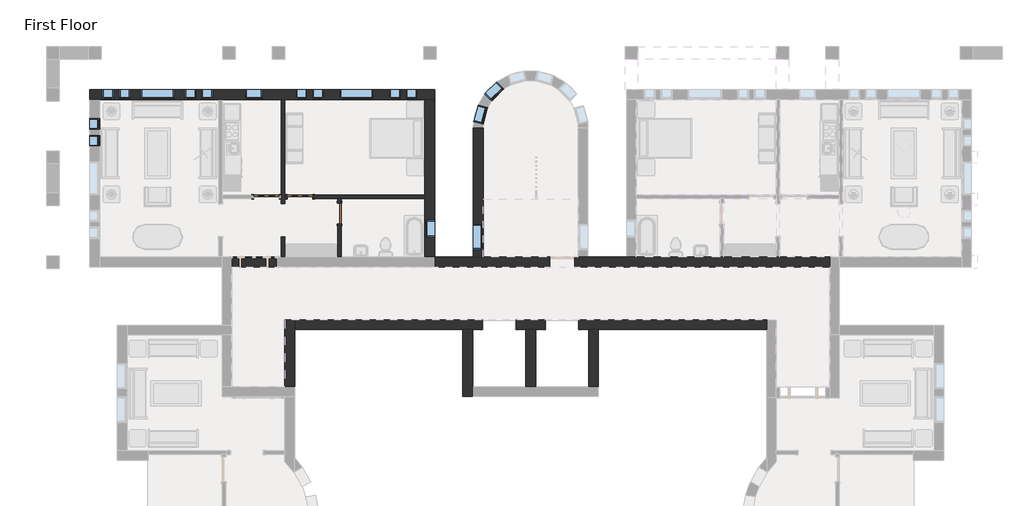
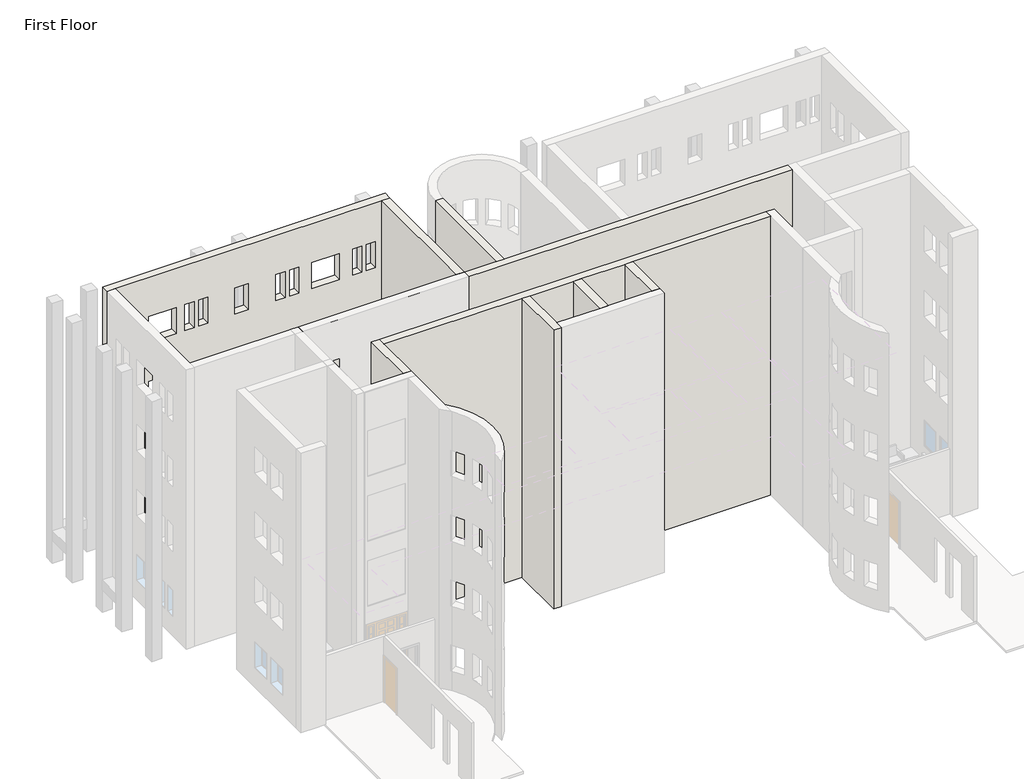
# One storey, part 13 of 21: 17 windows, 12 walls, 3 doors.
"""IFC4 building model written with IfcOpenShell, lengths in millimetres."""

from ifc_helpers import new_model, si_unit, frame, origin, origin_with_axes, place, context, project, spatial, polyline, outline, extrude, faceted_brep, transform, mapped, element, save
from components import door_829da954, door_2e3b4da2, door_e36758a9, window_da97879f, window_d61ef850, window_60baf983, window_ed80354a, window_15c49d37, window_d89bf842

model = new_model("IFC4")

# Units and contexts
model_context = context("Model", 3, world=origin())
ifc_project = project(units=[si_unit("LENGTHUNIT", "METRE", prefix="MILLI")], contexts=[model_context])

# Site, building, storey
site = spatial("IfcSite", under=ifc_project)
building = spatial("IfcBuilding", under=site)
storey = spatial("IfcBuildingStorey", under=building, Name="First Floor", Elevation=0.0)

# Doors
placement = place(None, origin())
door_shape = door_829da954(model_context)
element("IfcDoor", 1, ObjectType="Single-Decorative 2 : 36\" x 84\"", at=placement, inside=storey, context=model_context, shape_type="MappedRepresentation", body=[
    mapped(door_shape, transform((-23455.2839563, 6723.5441867, 0.0), x_axis=(-1.0, 0.0, 0.0), y_axis=(0.0, -1.0, 0.0), z_axis=(0.0, 0.0, 1.0))),
])
door_2_shape = door_2e3b4da2(model_context)
element("IfcDoor", 2, ObjectType="Single-Decorative 2 : 36\" x 84\"", at=placement, inside=storey, context=model_context, shape_type="MappedRepresentation", body=[
    mapped(door_2_shape, transform((-24674.4839563, 6723.5441867, 0.0), x_axis=(1.0, 0.0, 0.0), y_axis=(0.0, 1.0, 0.0), z_axis=(0.0, 0.0, 1.0))),
])
door_3_shape = door_e36758a9(model_context)
element("IfcDoor", 3, ObjectType="Single-Flush : 30\" x 84\"", at=placement, inside=storey, context=model_context, shape_type="MappedRepresentation", body=[
    mapped(door_3_shape, transform((-22018.5964563, 6113.9441867, 0.0), x_axis=(0.0, 1.0, 0.0), y_axis=(-1.0, 0.0, 0.0), z_axis=(0.0, 0.0, 1.0))),
])

# Walls
element("IfcWall", 4, ObjectType="Exterior - Brick on Mtl. Stud", at=placement, inside=storey, context=model_context, shape_type="Brep", body=[
    faceted_brep([(-17524.3839563, 1888.0191867, 0.0), (-17524.3839563, -550.3808133, 0.0), (-17524.3839563, -550.3808133, 13106.4), (-17524.3839563, 1888.0191867, 13106.4), (-17171.9589563, 1888.0191867, 0.0), (-17171.9589563, 1888.0191867, 13106.4), (-17171.9589563, -197.9558133, 13106.4), (-17171.9589563, -550.3808133, 13106.4), (-17171.9589563, -550.3808133, 0.0), (-17171.9589563, -197.9558133, 0.0)], [[[0, 1, 2, 3]], [[4, 5, 6, 7, 8, 9]], [[1, 0, 4, 9, 8]], [[3, 2, 7, 6, 5]], [[2, 1, 8, 7]], [[0, 3, 5, 4]]]),
])
element("IfcWall", 5, ObjectType="Exterior - Brick on Mtl. Stud", at=placement, inside=storey, context=model_context, shape_type="SweptSolid", body=[
    extrude(outline(polyline([(-12599.9589563, 1888.0191867), (-12599.9589563, -197.9558133), (-12952.3839563, -197.9558133), (-12952.3839563, 1888.0191867), (-12599.9589563, 1888.0191867)])), origin_with_axes(), (0.0, 0.0, 1.0), 13106.4),
])
element("IfcWall", 6, ObjectType="Exterior - Brick on Mtl. Stud", at=placement, inside=storey, context=model_context, shape_type="Brep", body=[
    faceted_brep([(-15595.5714563, 1888.0191867, 0.0), (-15238.3839563, 1888.0191867, 0.0), (-14885.9589563, 1888.0191867, 0.0), (-14528.7714563, 1888.0191867, 0.0), (-14528.7714563, 1888.0191867, 2133.6), (-13309.5714563, 1888.0191867, 2133.6), (-13309.5714563, 1888.0191867, 0.0), (-12952.3839563, 1888.0191867, 0.0), (-12599.9589563, 1888.0191867, 0.0), (-6475.3839563, 1888.0191867, 0.0), (-6475.3839563, 1888.0191867, 13106.4), (-12599.9589563, 1888.0191867, 13106.4), (-12952.3839563, 1888.0191867, 13106.4), (-14885.9589563, 1888.0191867, 13106.4), (-15238.3839563, 1888.0191867, 13106.4), (-17171.9589563, 1888.0191867, 13106.4), (-17524.3839563, 1888.0191867, 13106.4), (-23648.9589563, 1888.0191867, 13106.4), (-23648.9589563, 1888.0191867, 0.0), (-17524.3839563, 1888.0191867, 0.0), (-17171.9589563, 1888.0191867, 0.0), (-16814.7714563, 1888.0191867, 0.0), (-16814.7714563, 1888.0191867, 2133.6), (-15595.5714563, 1888.0191867, 2133.6), (-13309.5714563, 1888.0191867, 8229.6), (-13309.5714563, 1888.0191867, 6096.0), (-14528.7714563, 1888.0191867, 6096.0), (-14528.7714563, 1888.0191867, 8229.6), (-15595.5714563, 1888.0191867, 8229.6), (-15595.5714563, 1888.0191867, 6096.0), (-16814.7714563, 1888.0191867, 6096.0), (-16814.7714563, 1888.0191867, 8229.6), (-13309.5714563, 1888.0191867, 5181.6), (-13309.5714563, 1888.0191867, 3048.0), (-14528.7714563, 1888.0191867, 3048.0), (-14528.7714563, 1888.0191867, 5181.6), (-15595.5714563, 1888.0191867, 5181.6), (-15595.5714563, 1888.0191867, 3048.0), (-16814.7714563, 1888.0191867, 3048.0), (-16814.7714563, 1888.0191867, 5181.6), (-13309.5714563, 1888.0191867, 11277.6), (-13309.5714563, 1888.0191867, 9144.0), (-14528.7714563, 1888.0191867, 9144.0), (-14528.7714563, 1888.0191867, 11277.6), (-15595.5714563, 1888.0191867, 11277.6), (-15595.5714563, 1888.0191867, 9144.0), (-16814.7714563, 1888.0191867, 9144.0), (-16814.7714563, 1888.0191867, 11277.6), (-14528.7714563, 2240.4441867, 2133.6), (-14528.7714563, 2240.4441867, 0.0), (-15595.5714563, 2240.4441867, 0.0), (-15595.5714563, 2240.4441867, 2133.6), (-16814.7714563, 2240.4441867, 2133.6), (-16814.7714563, 2240.4441867, 0.0), (-23648.9589563, 2240.4441867, 0.0), (-23648.9589563, 2240.4441867, 13106.4), (-6475.3839563, 2240.4441867, 13106.4), (-6475.3839563, 2240.4441867, 0.0), (-13309.5714563, 2240.4441867, 0.0), (-13309.5714563, 2240.4441867, 2133.6), (-13309.5714563, 2240.4441867, 8229.6), (-14528.7714563, 2240.4441867, 8229.6), (-14528.7714563, 2240.4441867, 6096.0), (-13309.5714563, 2240.4441867, 6096.0), (-15595.5714563, 2240.4441867, 8229.6), (-16814.7714563, 2240.4441867, 8229.6), (-16814.7714563, 2240.4441867, 6096.0), (-15595.5714563, 2240.4441867, 6096.0), (-13309.5714563, 2240.4441867, 5181.6), (-14528.7714563, 2240.4441867, 5181.6), (-14528.7714563, 2240.4441867, 3048.0), (-13309.5714563, 2240.4441867, 3048.0), (-15595.5714563, 2240.4441867, 5181.6), (-16814.7714563, 2240.4441867, 5181.6), (-16814.7714563, 2240.4441867, 3048.0), (-15595.5714563, 2240.4441867, 3048.0), (-13309.5714563, 2240.4441867, 11277.6), (-14528.7714563, 2240.4441867, 11277.6), (-14528.7714563, 2240.4441867, 9144.0), (-13309.5714563, 2240.4441867, 9144.0), (-15595.5714563, 2240.4441867, 11277.6), (-16814.7714563, 2240.4441867, 11277.6), (-16814.7714563, 2240.4441867, 9144.0), (-15595.5714563, 2240.4441867, 9144.0)], [[[0, 1, 2, 3, 4, 5, 6, 7, 8, 9, 10, 11, 12, 13, 14, 15, 16, 17, 18, 19, 20, 21, 22, 23], [24, 25, 26, 27], [28, 29, 30, 31], [32, 33, 34, 35], [36, 37, 38, 39], [40, 41, 42, 43], [44, 45, 46, 47]], [[48, 49, 50, 51, 52, 53, 54, 55, 56, 57, 58, 59], [60, 61, 62, 63], [64, 65, 66, 67], [68, 69, 70, 71], [72, 73, 74, 75], [76, 77, 78, 79], [80, 81, 82, 83]], [[54, 53, 21, 20, 19, 18]], [[50, 49, 3, 2, 1, 0]], [[58, 57, 9, 8, 7, 6]], [[17, 16, 15, 14, 13, 12, 11, 10, 56, 55]], [[10, 9, 57, 56]], [[18, 17, 55, 54]], [[0, 23, 51, 50]], [[22, 21, 53, 52]], [[23, 22, 52, 51]], [[6, 5, 59, 58]], [[4, 3, 49, 48]], [[5, 4, 48, 59]], [[25, 24, 60, 63]], [[26, 25, 63, 62]], [[27, 26, 62, 61]], [[24, 27, 61, 60]], [[29, 28, 64, 67]], [[30, 29, 67, 66]], [[31, 30, 66, 65]], [[28, 31, 65, 64]], [[33, 32, 68, 71]], [[34, 33, 71, 70]], [[35, 34, 70, 69]], [[32, 35, 69, 68]], [[37, 36, 72, 75]], [[38, 37, 75, 74]], [[39, 38, 74, 73]], [[36, 39, 73, 72]], [[41, 40, 76, 79]], [[42, 41, 79, 78]], [[43, 42, 78, 77]], [[40, 43, 77, 76]], [[45, 44, 80, 83]], [[46, 45, 83, 82]], [[47, 46, 82, 81]], [[44, 47, 81, 80]]]),
])
element("IfcWall", 7, ObjectType="Exterior - Brick on Mtl. Stud", at=placement, inside=storey, context=model_context, shape_type="SweptSolid", body=[
    extrude(outline(polyline([(4526.4441867, 0.0), (4526.4441867, 13106.4), (9227.0316867, 13106.4), (9227.0316867, 0.0), (4526.4441867, 0.0)]), holes=[polyline([(4807.4316867, 8229.6), (4807.4316867, 7010.4), (5721.8316867, 7010.4), (5721.8316867, 8229.6), (4807.4316867, 8229.6)]), polyline([(4807.4316867, 5181.6), (4807.4316867, 3962.4), (5721.8316867, 3962.4), (5721.8316867, 5181.6), (4807.4316867, 5181.6)]), polyline([(4807.4316867, 11277.6), (4807.4316867, 10058.4), (5721.8316867, 10058.4), (5721.8316867, 11277.6), (4807.4316867, 11277.6)]), polyline([(4807.4316867, 2133.6), (4807.4316867, 914.4), (5721.8316867, 914.4), (5721.8316867, 2133.6), (4807.4316867, 2133.6)])]), frame((-17143.3839563, 0.0, 0.0), z_axis=(1.0, 0.0, 0.0), x_axis=(0.0, 1.0, 0.0)), (0.0, 0.0, 1.0), 352.425),
])
element("IfcWall", 8, ObjectType="Exterior - Brick on Mtl. Stud", at=placement, inside=storey, context=model_context, shape_type="Brep", body=[
    faceted_brep([(-4189.3839563, 4526.4441867, 0.0), (-12980.9589563, 4526.4441867, 0.0), (-13333.3839563, 4526.4441867, 0.0), (-13461.9714563, 4526.4441867, 0.0), (-13461.9714563, 4526.4441867, 2133.6), (-14376.3714563, 4526.4441867, 2133.6), (-14376.3714563, 4526.4441867, 0.0), (-16790.9589563, 4526.4441867, 0.0), (-17143.3839563, 4526.4441867, 0.0), (-21955.0964563, 4526.4441867, 0.0), (-22082.0964563, 4526.4441867, 0.0), (-24001.3839563, 4526.4441867, 0.0), (-24128.3839563, 4526.4441867, 0.0), (-25934.9589563, 4526.4441867, 0.0), (-25934.9589563, 4526.4441867, 13106.4), (-17143.3839563, 4526.4441867, 13106.4), (-16790.9589563, 4526.4441867, 13106.4), (-13333.3839563, 4526.4441867, 13106.4), (-12980.9589563, 4526.4441867, 13106.4), (-4189.3839563, 4526.4441867, 13106.4), (-14376.3714563, 4526.4441867, 6096.0), (-13461.9714563, 4526.4441867, 6096.0), (-13461.9714563, 4526.4441867, 8229.6), (-14376.3714563, 4526.4441867, 8229.6), (-14376.3714563, 4526.4441867, 3048.0), (-13461.9714563, 4526.4441867, 3048.0), (-13461.9714563, 4526.4441867, 5181.6), (-14376.3714563, 4526.4441867, 5181.6), (-14376.3714563, 4526.4441867, 9144.0), (-13461.9714563, 4526.4441867, 9144.0), (-13461.9714563, 4526.4441867, 11277.6), (-14376.3714563, 4526.4441867, 11277.6), (-13461.9714563, 4174.0191867, 2133.6), (-13461.9714563, 4174.0191867, 0.0), (-4189.3839563, 4174.0191867, 0.0), (-4189.3839563, 4174.0191867, 13106.4), (-25934.9589563, 4174.0191867, 13106.4), (-25934.9589563, 4174.0191867, 0.0), (-14376.3714563, 4174.0191867, 0.0), (-14376.3714563, 4174.0191867, 2133.6), (-14376.3714563, 4174.0191867, 6096.0), (-14376.3714563, 4174.0191867, 8229.6), (-13461.9714563, 4174.0191867, 8229.6), (-13461.9714563, 4174.0191867, 6096.0), (-14376.3714563, 4174.0191867, 3048.0), (-14376.3714563, 4174.0191867, 5181.6), (-13461.9714563, 4174.0191867, 5181.6), (-13461.9714563, 4174.0191867, 3048.0), (-14376.3714563, 4174.0191867, 9144.0), (-14376.3714563, 4174.0191867, 11277.6), (-13461.9714563, 4174.0191867, 11277.6), (-13461.9714563, 4174.0191867, 9144.0)], [[[0, 1, 2, 3, 4, 5, 6, 7, 8, 9, 10, 11, 12, 13, 14, 15, 16, 17, 18, 19], [20, 21, 22, 23], [24, 25, 26, 27], [28, 29, 30, 31]], [[32, 33, 34, 35, 36, 37, 38, 39], [40, 41, 42, 43], [44, 45, 46, 47], [48, 49, 50, 51]], [[34, 33, 3, 2, 1, 0]], [[38, 37, 13, 12, 11, 10, 9, 8, 7, 6]], [[19, 18, 17, 16, 15, 14, 36, 35]], [[0, 19, 35, 34]], [[14, 13, 37, 36]], [[4, 3, 33, 32]], [[5, 4, 32, 39]], [[6, 5, 39, 38]], [[21, 20, 40, 43]], [[22, 21, 43, 42]], [[23, 22, 42, 41]], [[20, 23, 41, 40]], [[25, 24, 44, 47]], [[26, 25, 47, 46]], [[27, 26, 46, 45]], [[24, 27, 45, 44]], [[29, 28, 48, 51]], [[30, 29, 51, 50]], [[31, 30, 50, 49]], [[28, 31, 49, 48]]]),
])
element("IfcWall", 9, ObjectType="Exterior - Brick on Mtl. Stud", at=placement, inside=storey, context=model_context, shape_type="SweptSolid", body=[
    extrude(outline(polyline([(-14885.9589563, 1888.0191867), (-14885.9589563, -197.9558133), (-15238.3839563, -197.9558133), (-15238.3839563, 1888.0191867), (-14885.9589563, 1888.0191867)])), origin_with_axes(), (0.0, 0.0, 1.0), 13106.4),
])
element("IfcWall", 10, ObjectType="Exterior - Brick on Mtl. Stud", at=placement, inside=storey, context=model_context, shape_type="Brep", body=[
    faceted_brep([(-24001.3839563, 2240.4441867, 0.0), (-24001.3839563, -197.9558133, 0.0), (-24001.3839563, -197.9558133, 13106.4), (-24001.3839563, 2240.4441867, 13106.4), (-23648.9589563, 2240.4441867, 0.0), (-23648.9589563, 2240.4441867, 13106.4), (-23648.9589563, 1888.0191867, 13106.4), (-23648.9589563, -197.9558133, 13106.4), (-23648.9589563, -197.9558133, 0.0), (-23648.9589563, 1888.0191867, 0.0)], [[[0, 1, 2, 3]], [[4, 5, 6, 7, 8, 9]], [[1, 0, 4, 9, 8]], [[3, 2, 7, 6, 5]], [[0, 3, 5, 4]], [[2, 1, 8, 7]]]),
])
element("IfcWall", 11, ObjectType="Exterior - Brick on Mtl. Stud", at=placement, inside=storey, context=model_context, shape_type="Brep", body=[
    faceted_brep([(-18554.6714563, 10622.4441867, 0.0), (-18741.9964563, 10622.4441867, 0.0), (-30911.7714563, 10622.4441867, 0.0), (-31099.0964563, 10622.4441867, 0.0), (-31099.0964563, 10622.4441867, 13106.4), (-18554.6714563, 10622.4441867, 13106.4), (-30033.8839563, 10622.4441867, 8229.6), (-30033.8839563, 10622.4441867, 7010.4), (-29627.4839563, 10622.4441867, 7010.4), (-29627.4839563, 10622.4441867, 8229.6), (-30643.4839563, 10622.4441867, 8229.6), (-30643.4839563, 10622.4441867, 7010.4), (-30237.0839563, 10622.4441867, 7010.4), (-30237.0839563, 10622.4441867, 8229.6), (-27239.8839563, 10622.4441867, 8229.6), (-27646.2839563, 10622.4441867, 8229.6), (-27646.2839563, 10622.4441867, 7010.4), (-27239.8839563, 10622.4441867, 7010.4), (-26630.2839563, 10622.4441867, 8229.6), (-27036.6839563, 10622.4441867, 8229.6), (-27036.6839563, 10622.4441867, 7010.4), (-26630.2839563, 10622.4441867, 7010.4), (-22998.0839563, 10622.4441867, 8229.6), (-22998.0839563, 10622.4441867, 7010.4), (-22591.6839563, 10622.4441867, 7010.4), (-22591.6839563, 10622.4441867, 8229.6), (-23607.6839563, 10622.4441867, 8229.6), (-23607.6839563, 10622.4441867, 7010.4), (-23201.2839563, 10622.4441867, 7010.4), (-23201.2839563, 10622.4441867, 8229.6), (-19797.6839563, 10622.4441867, 8229.6), (-20204.0839563, 10622.4441867, 8229.6), (-20204.0839563, 10622.4441867, 7010.4), (-19797.6839563, 10622.4441867, 7010.4), (-19188.0839563, 10622.4441867, 8229.6), (-19594.4839563, 10622.4441867, 8229.6), (-19594.4839563, 10622.4441867, 7010.4), (-19188.0839563, 10622.4441867, 7010.4), (-28027.2839563, 10622.4441867, 8229.6), (-29246.4839563, 10622.4441867, 8229.6), (-29246.4839563, 10622.4441867, 7010.4), (-28027.2839563, 10622.4441867, 7010.4), (-20788.2839563, 10622.4441867, 8229.6), (-22007.4839563, 10622.4441867, 8229.6), (-22007.4839563, 10622.4441867, 7010.4), (-20788.2839563, 10622.4441867, 7010.4), (-24826.8839563, 10622.4441867, 8229.6), (-25436.4839563, 10622.4441867, 8229.6), (-25436.4839563, 10622.4441867, 7010.4), (-24826.8839563, 10622.4441867, 7010.4), (-30033.8839563, 10622.4441867, 5181.6), (-30033.8839563, 10622.4441867, 3962.4), (-29627.4839563, 10622.4441867, 3962.4), (-29627.4839563, 10622.4441867, 5181.6), (-30643.4839563, 10622.4441867, 5181.6), (-30643.4839563, 10622.4441867, 3962.4), (-30237.0839563, 10622.4441867, 3962.4), (-30237.0839563, 10622.4441867, 5181.6), (-27239.8839563, 10622.4441867, 5181.6), (-27646.2839563, 10622.4441867, 5181.6), (-27646.2839563, 10622.4441867, 3962.4), (-27239.8839563, 10622.4441867, 3962.4), (-26630.2839563, 10622.4441867, 5181.6), (-27036.6839563, 10622.4441867, 5181.6), (-27036.6839563, 10622.4441867, 3962.4), (-26630.2839563, 10622.4441867, 3962.4), (-22998.0839563, 10622.4441867, 5181.6), (-22998.0839563, 10622.4441867, 3962.4), (-22591.6839563, 10622.4441867, 3962.4), (-22591.6839563, 10622.4441867, 5181.6), (-23607.6839563, 10622.4441867, 5181.6), (-23607.6839563, 10622.4441867, 3962.4), (-23201.2839563, 10622.4441867, 3962.4), (-23201.2839563, 10622.4441867, 5181.6), (-19797.6839563, 10622.4441867, 5181.6), (-20204.0839563, 10622.4441867, 5181.6), (-20204.0839563, 10622.4441867, 3962.4), (-19797.6839563, 10622.4441867, 3962.4), (-19188.0839563, 10622.4441867, 5181.6), (-19594.4839563, 10622.4441867, 5181.6), (-19594.4839563, 10622.4441867, 3962.4), (-19188.0839563, 10622.4441867, 3962.4), (-28027.2839563, 10622.4441867, 5181.6), (-29246.4839563, 10622.4441867, 5181.6), (-29246.4839563, 10622.4441867, 3962.4), (-28027.2839563, 10622.4441867, 3962.4), (-20788.2839563, 10622.4441867, 5181.6), (-22007.4839563, 10622.4441867, 5181.6), (-22007.4839563, 10622.4441867, 3962.4), (-20788.2839563, 10622.4441867, 3962.4), (-24826.8839563, 10622.4441867, 5181.6), (-25436.4839563, 10622.4441867, 5181.6), (-25436.4839563, 10622.4441867, 3962.4), (-24826.8839563, 10622.4441867, 3962.4), (-30033.8839563, 10622.4441867, 11277.6), (-30033.8839563, 10622.4441867, 10058.4), (-29627.4839563, 10622.4441867, 10058.4), (-29627.4839563, 10622.4441867, 11277.6), (-30643.4839563, 10622.4441867, 11277.6), (-30643.4839563, 10622.4441867, 10058.4), (-30237.0839563, 10622.4441867, 10058.4), (-30237.0839563, 10622.4441867, 11277.6), (-27239.8839563, 10622.4441867, 11277.6), (-27646.2839563, 10622.4441867, 11277.6), (-27646.2839563, 10622.4441867, 10058.4), (-27239.8839563, 10622.4441867, 10058.4), (-26630.2839563, 10622.4441867, 11277.6), (-27036.6839563, 10622.4441867, 11277.6), (-27036.6839563, 10622.4441867, 10058.4), (-26630.2839563, 10622.4441867, 10058.4), (-22998.0839563, 10622.4441867, 11277.6), (-22998.0839563, 10622.4441867, 10058.4), (-22591.6839563, 10622.4441867, 10058.4), (-22591.6839563, 10622.4441867, 11277.6), (-23607.6839563, 10622.4441867, 11277.6), (-23607.6839563, 10622.4441867, 10058.4), (-23201.2839563, 10622.4441867, 10058.4), (-23201.2839563, 10622.4441867, 11277.6), (-19797.6839563, 10622.4441867, 11277.6), (-20204.0839563, 10622.4441867, 11277.6), (-20204.0839563, 10622.4441867, 10058.4), (-19797.6839563, 10622.4441867, 10058.4), (-19188.0839563, 10622.4441867, 11277.6), (-19594.4839563, 10622.4441867, 11277.6), (-19594.4839563, 10622.4441867, 10058.4), (-19188.0839563, 10622.4441867, 10058.4), (-28027.2839563, 10622.4441867, 11277.6), (-29246.4839563, 10622.4441867, 11277.6), (-29246.4839563, 10622.4441867, 10058.4), (-28027.2839563, 10622.4441867, 10058.4), (-20788.2839563, 10622.4441867, 11277.6), (-22007.4839563, 10622.4441867, 11277.6), (-22007.4839563, 10622.4441867, 10058.4), (-20788.2839563, 10622.4441867, 10058.4), (-24826.8839563, 10622.4441867, 11277.6), (-25436.4839563, 10622.4441867, 11277.6), (-25436.4839563, 10622.4441867, 10058.4), (-24826.8839563, 10622.4441867, 10058.4), (-30033.8839563, 10622.4441867, 2133.6), (-30033.8839563, 10622.4441867, 914.4), (-29627.4839563, 10622.4441867, 914.4), (-29627.4839563, 10622.4441867, 2133.6), (-30643.4839563, 10622.4441867, 2133.6), (-30643.4839563, 10622.4441867, 914.4), (-30237.0839563, 10622.4441867, 914.4), (-30237.0839563, 10622.4441867, 2133.6), (-27239.8839563, 10622.4441867, 2133.6), (-27646.2839563, 10622.4441867, 2133.6), (-27646.2839563, 10622.4441867, 914.4), (-27239.8839563, 10622.4441867, 914.4), (-26630.2839563, 10622.4441867, 2133.6), (-27036.6839563, 10622.4441867, 2133.6), (-27036.6839563, 10622.4441867, 914.4), (-26630.2839563, 10622.4441867, 914.4), (-22998.0839563, 10622.4441867, 2133.6), (-22998.0839563, 10622.4441867, 914.4), (-22591.6839563, 10622.4441867, 914.4), (-22591.6839563, 10622.4441867, 2133.6), (-23607.6839563, 10622.4441867, 2133.6), (-23607.6839563, 10622.4441867, 914.4), (-23201.2839563, 10622.4441867, 914.4), (-23201.2839563, 10622.4441867, 2133.6), (-19797.6839563, 10622.4441867, 2133.6), (-20204.0839563, 10622.4441867, 2133.6), (-20204.0839563, 10622.4441867, 914.4), (-19797.6839563, 10622.4441867, 914.4), (-19188.0839563, 10622.4441867, 2133.6), (-19594.4839563, 10622.4441867, 2133.6), (-19594.4839563, 10622.4441867, 914.4), (-19188.0839563, 10622.4441867, 914.4), (-28027.2839563, 10622.4441867, 2133.6), (-29246.4839563, 10622.4441867, 2133.6), (-29246.4839563, 10622.4441867, 914.4), (-28027.2839563, 10622.4441867, 914.4), (-20788.2839563, 10622.4441867, 2133.6), (-22007.4839563, 10622.4441867, 2133.6), (-22007.4839563, 10622.4441867, 914.4), (-20788.2839563, 10622.4441867, 914.4), (-24826.8839563, 10622.4441867, 2133.6), (-25436.4839563, 10622.4441867, 2133.6), (-25436.4839563, 10622.4441867, 914.4), (-24826.8839563, 10622.4441867, 914.4), (-18554.6714563, 10270.0191867, 0.0), (-18554.6714563, 10270.0191867, 13106.4), (-18907.0964563, 10270.0191867, 13106.4), (-30746.6714563, 10270.0191867, 13106.4), (-31099.0964563, 10270.0191867, 13106.4), (-31099.0964563, 10270.0191867, 0.0), (-30911.7714563, 10270.0191867, 0.0), (-30746.6714563, 10270.0191867, 0.0), (-26414.3839563, 10270.0191867, 0.0), (-26287.3839563, 10270.0191867, 0.0), (-24128.3839563, 10270.0191867, 0.0), (-24001.3839563, 10270.0191867, 0.0), (-18907.0964563, 10270.0191867, 0.0), (-18741.9964563, 10270.0191867, 0.0), (-30033.8839563, 10270.0191867, 8229.6), (-29627.4839563, 10270.0191867, 8229.6), (-29627.4839563, 10270.0191867, 7010.4), (-30033.8839563, 10270.0191867, 7010.4), (-30643.4839563, 10270.0191867, 8229.6), (-30237.0839563, 10270.0191867, 8229.6), (-30237.0839563, 10270.0191867, 7010.4), (-30643.4839563, 10270.0191867, 7010.4), (-27239.8839563, 10270.0191867, 8229.6), (-27239.8839563, 10270.0191867, 7010.4), (-27646.2839563, 10270.0191867, 7010.4), (-27646.2839563, 10270.0191867, 8229.6), (-26630.2839563, 10270.0191867, 8229.6), (-26630.2839563, 10270.0191867, 7010.4), (-27036.6839563, 10270.0191867, 7010.4), (-27036.6839563, 10270.0191867, 8229.6), (-22998.0839563, 10270.0191867, 8229.6), (-22591.6839563, 10270.0191867, 8229.6), (-22591.6839563, 10270.0191867, 7010.4), (-22998.0839563, 10270.0191867, 7010.4), (-23607.6839563, 10270.0191867, 8229.6), (-23201.2839563, 10270.0191867, 8229.6), (-23201.2839563, 10270.0191867, 7010.4), (-23607.6839563, 10270.0191867, 7010.4), (-19797.6839563, 10270.0191867, 8229.6), (-19797.6839563, 10270.0191867, 7010.4), (-20204.0839563, 10270.0191867, 7010.4), (-20204.0839563, 10270.0191867, 8229.6), (-19188.0839563, 10270.0191867, 8229.6), (-19188.0839563, 10270.0191867, 7010.4), (-19594.4839563, 10270.0191867, 7010.4), (-19594.4839563, 10270.0191867, 8229.6), (-28027.2839563, 10270.0191867, 8229.6), (-28027.2839563, 10270.0191867, 7010.4), (-29246.4839563, 10270.0191867, 7010.4), (-29246.4839563, 10270.0191867, 8229.6), (-20788.2839563, 10270.0191867, 8229.6), (-20788.2839563, 10270.0191867, 7010.4), (-22007.4839563, 10270.0191867, 7010.4), (-22007.4839563, 10270.0191867, 8229.6), (-24826.8839563, 10270.0191867, 8229.6), (-24826.8839563, 10270.0191867, 7010.4), (-25436.4839563, 10270.0191867, 7010.4), (-25436.4839563, 10270.0191867, 8229.6), (-30033.8839563, 10270.0191867, 5181.6), (-29627.4839563, 10270.0191867, 5181.6), (-29627.4839563, 10270.0191867, 3962.4), (-30033.8839563, 10270.0191867, 3962.4), (-30643.4839563, 10270.0191867, 5181.6), (-30237.0839563, 10270.0191867, 5181.6), (-30237.0839563, 10270.0191867, 3962.4), (-30643.4839563, 10270.0191867, 3962.4), (-27239.8839563, 10270.0191867, 5181.6), (-27239.8839563, 10270.0191867, 3962.4), (-27646.2839563, 10270.0191867, 3962.4), (-27646.2839563, 10270.0191867, 5181.6), (-26630.2839563, 10270.0191867, 5181.6), (-26630.2839563, 10270.0191867, 3962.4), (-27036.6839563, 10270.0191867, 3962.4), (-27036.6839563, 10270.0191867, 5181.6), (-22998.0839563, 10270.0191867, 5181.6), (-22591.6839563, 10270.0191867, 5181.6), (-22591.6839563, 10270.0191867, 3962.4), (-22998.0839563, 10270.0191867, 3962.4), (-23607.6839563, 10270.0191867, 5181.6), (-23201.2839563, 10270.0191867, 5181.6), (-23201.2839563, 10270.0191867, 3962.4), (-23607.6839563, 10270.0191867, 3962.4), (-19797.6839563, 10270.0191867, 5181.6), (-19797.6839563, 10270.0191867, 3962.4), (-20204.0839563, 10270.0191867, 3962.4), (-20204.0839563, 10270.0191867, 5181.6), (-19188.0839563, 10270.0191867, 5181.6), (-19188.0839563, 10270.0191867, 3962.4), (-19594.4839563, 10270.0191867, 3962.4), (-19594.4839563, 10270.0191867, 5181.6), (-28027.2839563, 10270.0191867, 5181.6), (-28027.2839563, 10270.0191867, 3962.4), (-29246.4839563, 10270.0191867, 3962.4), (-29246.4839563, 10270.0191867, 5181.6), (-20788.2839563, 10270.0191867, 5181.6), (-20788.2839563, 10270.0191867, 3962.4), (-22007.4839563, 10270.0191867, 3962.4), (-22007.4839563, 10270.0191867, 5181.6), (-24826.8839563, 10270.0191867, 5181.6), (-24826.8839563, 10270.0191867, 3962.4), (-25436.4839563, 10270.0191867, 3962.4), (-25436.4839563, 10270.0191867, 5181.6), (-30033.8839563, 10270.0191867, 11277.6), (-29627.4839563, 10270.0191867, 11277.6), (-29627.4839563, 10270.0191867, 10058.4), (-30033.8839563, 10270.0191867, 10058.4), (-30643.4839563, 10270.0191867, 11277.6), (-30237.0839563, 10270.0191867, 11277.6), (-30237.0839563, 10270.0191867, 10058.4), (-30643.4839563, 10270.0191867, 10058.4), (-27239.8839563, 10270.0191867, 11277.6), (-27239.8839563, 10270.0191867, 10058.4), (-27646.2839563, 10270.0191867, 10058.4), (-27646.2839563, 10270.0191867, 11277.6), (-26630.2839563, 10270.0191867, 11277.6), (-26630.2839563, 10270.0191867, 10058.4), (-27036.6839563, 10270.0191867, 10058.4), (-27036.6839563, 10270.0191867, 11277.6), (-22998.0839563, 10270.0191867, 11277.6), (-22591.6839563, 10270.0191867, 11277.6), (-22591.6839563, 10270.0191867, 10058.4), (-22998.0839563, 10270.0191867, 10058.4), (-23607.6839563, 10270.0191867, 11277.6), (-23201.2839563, 10270.0191867, 11277.6), (-23201.2839563, 10270.0191867, 10058.4), (-23607.6839563, 10270.0191867, 10058.4), (-19797.6839563, 10270.0191867, 11277.6), (-19797.6839563, 10270.0191867, 10058.4), (-20204.0839563, 10270.0191867, 10058.4), (-20204.0839563, 10270.0191867, 11277.6), (-19188.0839563, 10270.0191867, 11277.6), (-19188.0839563, 10270.0191867, 10058.4), (-19594.4839563, 10270.0191867, 10058.4), (-19594.4839563, 10270.0191867, 11277.6), (-28027.2839563, 10270.0191867, 11277.6), (-28027.2839563, 10270.0191867, 10058.4), (-29246.4839563, 10270.0191867, 10058.4), (-29246.4839563, 10270.0191867, 11277.6), (-20788.2839563, 10270.0191867, 11277.6), (-20788.2839563, 10270.0191867, 10058.4), (-22007.4839563, 10270.0191867, 10058.4), (-22007.4839563, 10270.0191867, 11277.6), (-24826.8839563, 10270.0191867, 11277.6), (-24826.8839563, 10270.0191867, 10058.4), (-25436.4839563, 10270.0191867, 10058.4), (-25436.4839563, 10270.0191867, 11277.6), (-30033.8839563, 10270.0191867, 2133.6), (-29627.4839563, 10270.0191867, 2133.6), (-29627.4839563, 10270.0191867, 914.4), (-30033.8839563, 10270.0191867, 914.4), (-30643.4839563, 10270.0191867, 2133.6), (-30237.0839563, 10270.0191867, 2133.6), (-30237.0839563, 10270.0191867, 914.4), (-30643.4839563, 10270.0191867, 914.4), (-27239.8839563, 10270.0191867, 2133.6), (-27239.8839563, 10270.0191867, 914.4), (-27646.2839563, 10270.0191867, 914.4), (-27646.2839563, 10270.0191867, 2133.6), (-26630.2839563, 10270.0191867, 2133.6), (-26630.2839563, 10270.0191867, 914.4), (-27036.6839563, 10270.0191867, 914.4), (-27036.6839563, 10270.0191867, 2133.6), (-22998.0839563, 10270.0191867, 2133.6), (-22591.6839563, 10270.0191867, 2133.6), (-22591.6839563, 10270.0191867, 914.4), (-22998.0839563, 10270.0191867, 914.4), (-23607.6839563, 10270.0191867, 2133.6), (-23201.2839563, 10270.0191867, 2133.6), (-23201.2839563, 10270.0191867, 914.4), (-23607.6839563, 10270.0191867, 914.4), (-19797.6839563, 10270.0191867, 2133.6), (-19797.6839563, 10270.0191867, 914.4), (-20204.0839563, 10270.0191867, 914.4), (-20204.0839563, 10270.0191867, 2133.6), (-19188.0839563, 10270.0191867, 2133.6), (-19188.0839563, 10270.0191867, 914.4), (-19594.4839563, 10270.0191867, 914.4), (-19594.4839563, 10270.0191867, 2133.6), (-28027.2839563, 10270.0191867, 2133.6), (-28027.2839563, 10270.0191867, 914.4), (-29246.4839563, 10270.0191867, 914.4), (-29246.4839563, 10270.0191867, 2133.6), (-20788.2839563, 10270.0191867, 2133.6), (-20788.2839563, 10270.0191867, 914.4), (-22007.4839563, 10270.0191867, 914.4), (-22007.4839563, 10270.0191867, 2133.6), (-24826.8839563, 10270.0191867, 2133.6), (-24826.8839563, 10270.0191867, 914.4), (-25436.4839563, 10270.0191867, 914.4), (-25436.4839563, 10270.0191867, 2133.6), (-31099.0964563, 10435.1191867, 0.0), (-18554.6714563, 10435.1191867, 0.0), (-18741.9964563, 10435.1191867, 0.0), (-30911.7714563, 10435.1191867, 0.0)], [[[0, 1, 2, 3, 4, 5], [6, 7, 8, 9], [10, 11, 12, 13], [14, 15, 16, 17], [18, 19, 20, 21], [22, 23, 24, 25], [26, 27, 28, 29], [30, 31, 32, 33], [34, 35, 36, 37], [38, 39, 40, 41], [42, 43, 44, 45], [46, 47, 48, 49], [50, 51, 52, 53], [54, 55, 56, 57], [58, 59, 60, 61], [62, 63, 64, 65], [66, 67, 68, 69], [70, 71, 72, 73], [74, 75, 76, 77], [78, 79, 80, 81], [82, 83, 84, 85], [86, 87, 88, 89], [90, 91, 92, 93], [94, 95, 96, 97], [98, 99, 100, 101], [102, 103, 104, 105], [106, 107, 108, 109], [110, 111, 112, 113], [114, 115, 116, 117], [118, 119, 120, 121], [122, 123, 124, 125], [126, 127, 128, 129], [130, 131, 132, 133], [134, 135, 136, 137], [138, 139, 140, 141], [142, 143, 144, 145], [146, 147, 148, 149], [150, 151, 152, 153], [154, 155, 156, 157], [158, 159, 160, 161], [162, 163, 164, 165], [166, 167, 168, 169], [170, 171, 172, 173], [174, 175, 176, 177], [178, 179, 180, 181]], [[182, 183, 184, 185, 186, 187, 188, 189, 190, 191, 192, 193, 194, 195], [196, 197, 198, 199], [200, 201, 202, 203], [204, 205, 206, 207], [208, 209, 210, 211], [212, 213, 214, 215], [216, 217, 218, 219], [220, 221, 222, 223], [224, 225, 226, 227], [228, 229, 230, 231], [232, 233, 234, 235], [236, 237, 238, 239], [240, 241, 242, 243], [244, 245, 246, 247], [248, 249, 250, 251], [252, 253, 254, 255], [256, 257, 258, 259], [260, 261, 262, 263], [264, 265, 266, 267], [268, 269, 270, 271], [272, 273, 274, 275], [276, 277, 278, 279], [280, 281, 282, 283], [284, 285, 286, 287], [288, 289, 290, 291], [292, 293, 294, 295], [296, 297, 298, 299], [300, 301, 302, 303], [304, 305, 306, 307], [308, 309, 310, 311], [312, 313, 314, 315], [316, 317, 318, 319], [320, 321, 322, 323], [324, 325, 326, 327], [328, 329, 330, 331], [332, 333, 334, 335], [336, 337, 338, 339], [340, 341, 342, 343], [344, 345, 346, 347], [348, 349, 350, 351], [352, 353, 354, 355], [356, 357, 358, 359], [360, 361, 362, 363], [364, 365, 366, 367], [368, 369, 370, 371]], [[5, 4, 186, 185, 184, 183]], [[4, 3, 372, 187, 186]], [[0, 5, 183, 182, 373]], [[2, 1, 374, 375]], [[373, 182, 195, 374]], [[1, 0, 373, 374]], [[375, 188, 187, 372]], [[3, 2, 375, 372]], [[374, 195, 194, 193, 192, 191, 190, 189, 188, 375]], [[7, 6, 196, 199]], [[8, 7, 199, 198]], [[9, 8, 198, 197]], [[6, 9, 197, 196]], [[11, 10, 200, 203]], [[12, 11, 203, 202]], [[13, 12, 202, 201]], [[10, 13, 201, 200]], [[205, 204, 14, 17]], [[206, 205, 17, 16]], [[207, 206, 16, 15]], [[204, 207, 15, 14]], [[209, 208, 18, 21]], [[210, 209, 21, 20]], [[211, 210, 20, 19]], [[208, 211, 19, 18]], [[23, 22, 212, 215]], [[24, 23, 215, 214]], [[25, 24, 214, 213]], [[22, 25, 213, 212]], [[27, 26, 216, 219]], [[28, 27, 219, 218]], [[29, 28, 218, 217]], [[26, 29, 217, 216]], [[221, 220, 30, 33]], [[222, 221, 33, 32]], [[223, 222, 32, 31]], [[220, 223, 31, 30]], [[225, 224, 34, 37]], [[226, 225, 37, 36]], [[227, 226, 36, 35]], [[224, 227, 35, 34]], [[229, 228, 38, 41]], [[230, 229, 41, 40]], [[231, 230, 40, 39]], [[228, 231, 39, 38]], [[233, 232, 42, 45]], [[234, 233, 45, 44]], [[235, 234, 44, 43]], [[232, 235, 43, 42]], [[237, 236, 46, 49]], [[238, 237, 49, 48]], [[239, 238, 48, 47]], [[236, 239, 47, 46]], [[51, 50, 240, 243]], [[52, 51, 243, 242]], [[53, 52, 242, 241]], [[50, 53, 241, 240]], [[55, 54, 244, 247]], [[56, 55, 247, 246]], [[57, 56, 246, 245]], [[54, 57, 245, 244]], [[249, 248, 58, 61]], [[250, 249, 61, 60]], [[251, 250, 60, 59]], [[248, 251, 59, 58]], [[253, 252, 62, 65]], [[254, 253, 65, 64]], [[255, 254, 64, 63]], [[252, 255, 63, 62]], [[67, 66, 256, 259]], [[68, 67, 259, 258]], [[69, 68, 258, 257]], [[66, 69, 257, 256]], [[71, 70, 260, 263]], [[72, 71, 263, 262]], [[73, 72, 262, 261]], [[70, 73, 261, 260]], [[265, 264, 74, 77]], [[266, 265, 77, 76]], [[267, 266, 76, 75]], [[264, 267, 75, 74]], [[269, 268, 78, 81]], [[270, 269, 81, 80]], [[271, 270, 80, 79]], [[268, 271, 79, 78]], [[273, 272, 82, 85]], [[274, 273, 85, 84]], [[275, 274, 84, 83]], [[272, 275, 83, 82]], [[277, 276, 86, 89]], [[278, 277, 89, 88]], [[279, 278, 88, 87]], [[276, 279, 87, 86]], [[281, 280, 90, 93]], [[282, 281, 93, 92]], [[283, 282, 92, 91]], [[280, 283, 91, 90]], [[95, 94, 284, 287]], [[96, 95, 287, 286]], [[97, 96, 286, 285]], [[94, 97, 285, 284]], [[99, 98, 288, 291]], [[100, 99, 291, 290]], [[101, 100, 290, 289]], [[98, 101, 289, 288]], [[293, 292, 102, 105]], [[294, 293, 105, 104]], [[295, 294, 104, 103]], [[292, 295, 103, 102]], [[297, 296, 106, 109]], [[298, 297, 109, 108]], [[299, 298, 108, 107]], [[296, 299, 107, 106]], [[111, 110, 300, 303]], [[112, 111, 303, 302]], [[113, 112, 302, 301]], [[110, 113, 301, 300]], [[115, 114, 304, 307]], [[116, 115, 307, 306]], [[117, 116, 306, 305]], [[114, 117, 305, 304]], [[309, 308, 118, 121]], [[310, 309, 121, 120]], [[311, 310, 120, 119]], [[308, 311, 119, 118]], [[313, 312, 122, 125]], [[314, 313, 125, 124]], [[315, 314, 124, 123]], [[312, 315, 123, 122]], [[317, 316, 126, 129]], [[318, 317, 129, 128]], [[319, 318, 128, 127]], [[316, 319, 127, 126]], [[321, 320, 130, 133]], [[322, 321, 133, 132]], [[323, 322, 132, 131]], [[320, 323, 131, 130]], [[325, 324, 134, 137]], [[326, 325, 137, 136]], [[327, 326, 136, 135]], [[324, 327, 135, 134]], [[139, 138, 328, 331]], [[140, 139, 331, 330]], [[141, 140, 330, 329]], [[138, 141, 329, 328]], [[143, 142, 332, 335]], [[144, 143, 335, 334]], [[145, 144, 334, 333]], [[142, 145, 333, 332]], [[337, 336, 146, 149]], [[338, 337, 149, 148]], [[339, 338, 148, 147]], [[336, 339, 147, 146]], [[341, 340, 150, 153]], [[342, 341, 153, 152]], [[343, 342, 152, 151]], [[340, 343, 151, 150]], [[155, 154, 344, 347]], [[156, 155, 347, 346]], [[157, 156, 346, 345]], [[154, 157, 345, 344]], [[159, 158, 348, 351]], [[160, 159, 351, 350]], [[161, 160, 350, 349]], [[158, 161, 349, 348]], [[353, 352, 162, 165]], [[354, 353, 165, 164]], [[355, 354, 164, 163]], [[352, 355, 163, 162]], [[357, 356, 166, 169]], [[358, 357, 169, 168]], [[359, 358, 168, 167]], [[356, 359, 167, 166]], [[361, 360, 170, 173]], [[362, 361, 173, 172]], [[363, 362, 172, 171]], [[360, 363, 171, 170]], [[365, 364, 174, 177]], [[366, 365, 177, 176]], [[367, 366, 176, 175]], [[364, 367, 175, 174]], [[369, 368, 178, 181]], [[370, 369, 181, 180]], [[371, 370, 180, 179]], [[368, 371, 179, 178]]]),
])
element("IfcWall", 12, ObjectType="Exterior - Brick on Mtl. Stud", at=placement, inside=storey, context=model_context, shape_type="Brep", body=[
    faceted_brep([(-18554.6714563, 4526.4441867, 0.0), (-18554.6714563, 10270.0191867, 0.0), (-18554.6714563, 10270.0191867, 13106.4), (-18554.6714563, 4526.4441867, 13106.4), (-18554.6714563, 5264.6316867, 8229.6), (-18554.6714563, 5874.2316867, 8229.6), (-18554.6714563, 5874.2316867, 7010.4), (-18554.6714563, 5264.6316867, 7010.4), (-18554.6714563, 5264.6316867, 5181.6), (-18554.6714563, 5874.2316867, 5181.6), (-18554.6714563, 5874.2316867, 3962.4), (-18554.6714563, 5264.6316867, 3962.4), (-18554.6714563, 5264.6316867, 11277.6), (-18554.6714563, 5874.2316867, 11277.6), (-18554.6714563, 5874.2316867, 10058.4), (-18554.6714563, 5264.6316867, 10058.4), (-18554.6714563, 5264.6316867, 2133.6), (-18554.6714563, 5874.2316867, 2133.6), (-18554.6714563, 5874.2316867, 914.4), (-18554.6714563, 5264.6316867, 914.4), (-18907.0964563, 4526.4441867, 0.0), (-18907.0964563, 4526.4441867, 13106.4), (-18907.0964563, 10270.0191867, 13106.4), (-18907.0964563, 10270.0191867, 0.0), (-18907.0964563, 6787.0441867, 0.0), (-18907.0964563, 6660.0441867, 0.0), (-18907.0964563, 5264.6316867, 8229.6), (-18907.0964563, 5264.6316867, 7010.4), (-18907.0964563, 5874.2316867, 7010.4), (-18907.0964563, 5874.2316867, 8229.6), (-18907.0964563, 5264.6316867, 5181.6), (-18907.0964563, 5264.6316867, 3962.4), (-18907.0964563, 5874.2316867, 3962.4), (-18907.0964563, 5874.2316867, 5181.6), (-18907.0964563, 5264.6316867, 11277.6), (-18907.0964563, 5264.6316867, 10058.4), (-18907.0964563, 5874.2316867, 10058.4), (-18907.0964563, 5874.2316867, 11277.6), (-18907.0964563, 5264.6316867, 2133.6), (-18907.0964563, 5264.6316867, 914.4), (-18907.0964563, 5874.2316867, 914.4), (-18907.0964563, 5874.2316867, 2133.6), (-18741.9964563, 4526.4441867, 0.0), (-18741.9964563, 10270.0191867, 0.0)], [[[0, 1, 2, 3], [4, 5, 6, 7], [8, 9, 10, 11], [12, 13, 14, 15], [16, 17, 18, 19]], [[20, 21, 22, 23, 24, 25], [26, 27, 28, 29], [30, 31, 32, 33], [34, 35, 36, 37], [38, 39, 40, 41]], [[3, 2, 22, 21]], [[0, 3, 21, 20, 42]], [[2, 1, 43, 23, 22]], [[1, 0, 42, 43]], [[42, 20, 25, 24, 23, 43]], [[27, 26, 4, 7]], [[28, 27, 7, 6]], [[29, 28, 6, 5]], [[26, 29, 5, 4]], [[31, 30, 8, 11]], [[32, 31, 11, 10]], [[33, 32, 10, 9]], [[30, 33, 9, 8]], [[35, 34, 12, 15]], [[36, 35, 15, 14]], [[37, 36, 14, 13]], [[34, 37, 13, 12]], [[39, 38, 16, 19]], [[40, 39, 19, 18]], [[41, 40, 18, 17]], [[38, 41, 17, 16]]]),
])
element("IfcWall", 13, ObjectType="Interior - 5\" Partition (2-hr)", at=placement, inside=storey, context=model_context, shape_type="Brep", body=[
    faceted_brep([(-24128.3839563, 5264.6316867, 2133.6), (-24128.3839563, 5264.6316867, 0.0), (-24128.3839563, 4526.4441867, 0.0), (-24128.3839563, 4526.4441867, 3048.0), (-24128.3839563, 6660.0441867, 3048.0), (-24128.3839563, 6787.0441867, 3048.0), (-24128.3839563, 10270.0191867, 3048.0), (-24128.3839563, 10270.0191867, 0.0), (-24128.3839563, 6787.0441867, 0.0), (-24128.3839563, 6660.0441867, 0.0), (-24128.3839563, 6483.8316867, 0.0), (-24128.3839563, 6483.8316867, 2133.6), (-24001.3839563, 4526.4441867, 0.0), (-24001.3839563, 5264.6316867, 0.0), (-24001.3839563, 5264.6316867, 2133.6), (-24001.3839563, 6483.8316867, 2133.6), (-24001.3839563, 6483.8316867, 0.0), (-24001.3839563, 6660.0441867, 0.0), (-24001.3839563, 6787.0441867, 0.0), (-24001.3839563, 10270.0191867, 0.0), (-24001.3839563, 10270.0191867, 3048.0), (-24001.3839563, 6787.0441867, 3048.0), (-24001.3839563, 6660.0441867, 3048.0), (-24001.3839563, 4526.4441867, 3048.0)], [[[0, 1, 2, 3, 4, 5, 6, 7, 8, 9, 10, 11]], [[12, 13, 14, 15, 16, 17, 18, 19, 20, 21, 22, 23]], [[2, 1, 13, 12]], [[10, 9, 8, 7, 19, 18, 17, 16]], [[6, 5, 4, 3, 23, 22, 21, 20]], [[7, 6, 20, 19]], [[3, 2, 12, 23]], [[16, 15, 11, 10]], [[14, 13, 1, 0]], [[15, 14, 0, 11]]]),
])
element("IfcWall", 14, ObjectType="Interior - 5\" Partition (2-hr)", at=placement, inside=storey, context=model_context, shape_type="Brep", body=[
    faceted_brep([(-23912.4839563, 6787.0441867, 2133.6), (-23912.4839563, 6787.0441867, 0.0), (-24001.3839563, 6787.0441867, 0.0), (-24001.3839563, 6787.0441867, 3048.0), (-18907.0964563, 6787.0441867, 3048.0), (-18907.0964563, 6787.0441867, 0.0), (-22998.0839563, 6787.0441867, 0.0), (-22998.0839563, 6787.0441867, 2133.6), (-24001.3839563, 6660.0441867, 0.0), (-23912.4839563, 6660.0441867, 0.0), (-23912.4839563, 6660.0441867, 2133.6), (-22998.0839563, 6660.0441867, 2133.6), (-22998.0839563, 6660.0441867, 0.0), (-22082.0964563, 6660.0441867, 0.0), (-21955.0964563, 6660.0441867, 0.0), (-18907.0964563, 6660.0441867, 0.0), (-18907.0964563, 6660.0441867, 3048.0), (-21955.0964563, 6660.0441867, 3048.0), (-22082.0964563, 6660.0441867, 3048.0), (-24001.3839563, 6660.0441867, 3048.0)], [[[0, 1, 2, 3, 4, 5, 6, 7]], [[8, 9, 10, 11, 12, 13, 14, 15, 16, 17, 18, 19]], [[2, 1, 9, 8]], [[6, 5, 15, 14, 13, 12]], [[4, 3, 19, 18, 17, 16]], [[5, 4, 16, 15]], [[3, 2, 8, 19]], [[10, 9, 1, 0]], [[11, 10, 0, 7]], [[12, 11, 7, 6]]]),
])
element("IfcWall", 15, ObjectType="Interior - 5\" Partition (2-hr)", at=placement, inside=storey, context=model_context, shape_type="SweptSolid", body=[
    extrude(outline(polyline([(6660.0441867, 0.0), (6494.9441867, 0.0), (6494.9441867, 2133.6), (5732.9441867, 2133.6), (5732.9441867, 0.0), (4526.4441867, 0.0), (4526.4441867, 3048.0), (6660.0441867, 3048.0), (6660.0441867, 0.0)])), frame((-22082.0964563, 0.0, 0.0), z_axis=(1.0, 0.0, 0.0), x_axis=(0.0, 1.0, 0.0)), (0.0, 0.0, 1.0), 127.0),
])

# Windows
window_shape = window_da97879f(model_context)
element("IfcWindow", 16, ObjectType="Fixed : 16\" x 48\"", at=placement, inside=storey, context=model_context, shape_type="MappedRepresentation", body=[
    mapped(window_shape, transform((-23442.5839563, 10446.2316867, 0.0), x_axis=(-1.0, 0.0, 0.0), y_axis=(0.0, -1.0, 0.0), z_axis=(0.0, 0.0, 1.0))),
])
element("IfcWindow", 17, ObjectType="Fixed : 16\" x 48\"", at=placement, inside=storey, context=model_context, shape_type="MappedRepresentation", body=[
    mapped(window_shape, transform((-22832.9839563, 10446.2316867, 0.0), x_axis=(-1.0, 0.0, 0.0), y_axis=(0.0, -1.0, 0.0), z_axis=(0.0, 0.0, 1.0))),
])
element("IfcWindow", 18, ObjectType="Fixed : 16\" x 48\"", at=placement, inside=storey, context=model_context, shape_type="MappedRepresentation", body=[
    mapped(window_shape, transform((-30478.3839563, 10446.2316867, 0.0), x_axis=(-1.0, 0.0, 0.0), y_axis=(0.0, -1.0, 0.0), z_axis=(0.0, 0.0, 1.0))),
])
element("IfcWindow", 19, ObjectType="Fixed : 16\" x 48\"", at=placement, inside=storey, context=model_context, shape_type="MappedRepresentation", body=[
    mapped(window_shape, transform((-29868.7839563, 10446.2316867, 0.0), x_axis=(-1.0, 0.0, 0.0), y_axis=(0.0, -1.0, 0.0), z_axis=(0.0, 0.0, 1.0))),
])
window_2_shape = window_d61ef850(model_context)
element("IfcWindow", 20, ObjectType="Fixed : 16\" x 48\"", at=placement, inside=storey, context=model_context, shape_type="MappedRepresentation", body=[
    mapped(window_2_shape, transform((-19353.1839563, 10446.2316867, 0.0), x_axis=(1.0, 0.0, 0.0), y_axis=(0.0, 1.0, 0.0), z_axis=(0.0, 0.0, 1.0))),
])
element("IfcWindow", 21, ObjectType="Fixed : 16\" x 48\"", at=placement, inside=storey, context=model_context, shape_type="MappedRepresentation", body=[
    mapped(window_2_shape, transform((-19962.7839563, 10446.2316867, 0.0), x_axis=(1.0, 0.0, 0.0), y_axis=(0.0, 1.0, 0.0), z_axis=(0.0, 0.0, 1.0))),
])
element("IfcWindow", 22, ObjectType="Fixed : 16\" x 48\"", at=placement, inside=storey, context=model_context, shape_type="MappedRepresentation", body=[
    mapped(window_2_shape, transform((-26795.3839563, 10446.2316867, 0.0), x_axis=(1.0, 0.0, 0.0), y_axis=(0.0, 1.0, 0.0), z_axis=(0.0, 0.0, 1.0))),
])
element("IfcWindow", 23, ObjectType="Fixed : 16\" x 48\"", at=placement, inside=storey, context=model_context, shape_type="MappedRepresentation", body=[
    mapped(window_2_shape, transform((-27404.9839563, 10446.2316867, 0.0), x_axis=(1.0, 0.0, 0.0), y_axis=(0.0, 1.0, 0.0), z_axis=(0.0, 0.0, 1.0))),
])
element("IfcWindow", 24, ObjectType="Fixed : 16\" x 48\"", at=placement, inside=storey, context=model_context, shape_type="MappedRepresentation", body=[
    mapped(window_2_shape, transform((-30922.8839563, 9417.5316867, 0.0), x_axis=(0.0, 1.0, 0.0), y_axis=(-1.0, 0.0, 0.0), z_axis=(0.0, 0.0, 1.0))),
])
element("IfcWindow", 25, ObjectType="Fixed : 16\" x 48\"", at=placement, inside=storey, context=model_context, shape_type="MappedRepresentation", body=[
    mapped(window_2_shape, transform((-30922.8839563, 8807.9316867, 0.0), x_axis=(0.0, 1.0, 0.0), y_axis=(-1.0, 0.0, 0.0), z_axis=(0.0, 0.0, 1.0))),
])
window_3_shape = window_60baf983(model_context)
element("IfcWindow", 26, ObjectType="Fixed : 24\" x 48\"", at=placement, inside=storey, context=model_context, shape_type="MappedRepresentation", body=[
    mapped(window_3_shape, transform((-16889.064163, 9683.0417496, 0.0), x_axis=(-0.2617614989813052, -0.9651325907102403, 0.0), y_axis=(0.9651325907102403, -0.2617614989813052, 0.0), z_axis=(0.0, 0.0, 1.0))),
])
element("IfcWindow", 27, ObjectType="Fixed : 24\" x 48\"", at=placement, inside=storey, context=model_context, shape_type="MappedRepresentation", body=[
    mapped(window_3_shape, transform((-16416.3019188, 10535.3943388, 0.0), x_axis=(-0.7092584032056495, -0.7049485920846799, 0.0), y_axis=(0.7049485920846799, -0.7092584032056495, 0.0), z_axis=(0.0, 0.0, 1.0))),
])
window_4_shape = window_ed80354a(model_context)
element("IfcWindow", 28, ObjectType="Fixed : 24\" x 48\"", at=placement, inside=storey, context=model_context, shape_type="MappedRepresentation", body=[
    mapped(window_4_shape, transform((-25093.5839563, 10446.2316867, 0.0), x_axis=(1.0, 0.0, 0.0), y_axis=(0.0, 1.0, 0.0), z_axis=(0.0, 0.0, 1.0))),
])
element("IfcWindow", 29, ObjectType="Fixed : 24\" x 48\"", at=placement, inside=storey, context=model_context, shape_type="MappedRepresentation", body=[
    mapped(window_4_shape, transform((-18730.8839563, 5531.3316867, 0.0), x_axis=(0.0, -1.0, 0.0), y_axis=(1.0, 0.0, 0.0), z_axis=(0.0, 0.0, 1.0))),
])
window_5_shape = window_15c49d37(model_context)
element("IfcWindow", 30, ObjectType="Fixed : 36\" x 48\"", at=placement, inside=storey, context=model_context, shape_type="MappedRepresentation", body=[
    mapped(window_5_shape, transform((-16967.1714563, 5226.5316867, 0.0), x_axis=(0.0, -1.0, 0.0), y_axis=(1.0, 0.0, 0.0), z_axis=(0.0, 0.0, 1.0))),
])
window_6_shape = window_d89bf842(model_context)
element("IfcWindow", 31, ObjectType="Fixed : 48\" x 48\"", at=placement, inside=storey, context=model_context, shape_type="MappedRepresentation", body=[
    mapped(window_6_shape, transform((-21359.7839563, 10446.2316867, 0.0), x_axis=(1.0, 0.0, 0.0), y_axis=(0.0, 1.0, 0.0), z_axis=(0.0, 0.0, 1.0))),
])
element("IfcWindow", 32, ObjectType="Fixed : 48\" x 48\"", at=placement, inside=storey, context=model_context, shape_type="MappedRepresentation", body=[
    mapped(window_6_shape, transform((-28598.7839563, 10446.2316867, 0.0), x_axis=(1.0, 0.0, 0.0), y_axis=(0.0, 1.0, 0.0), z_axis=(0.0, 0.0, 1.0))),
])

save(model, "model.ifc")
